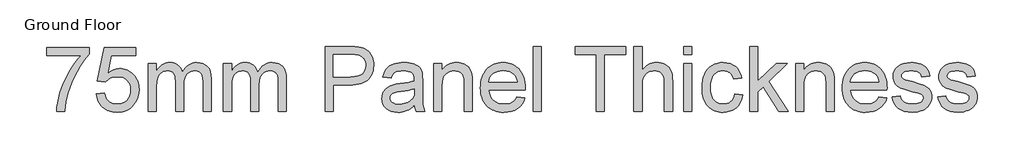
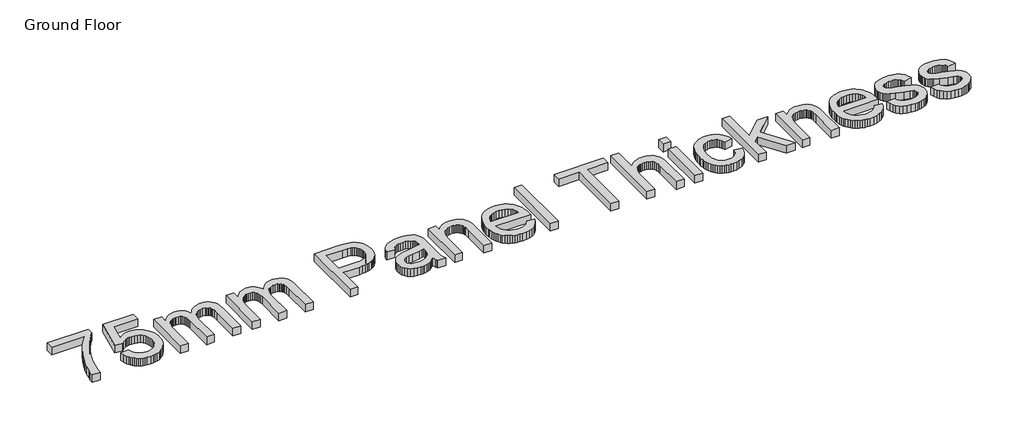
# One storey, part 6 of 9: 1 proxy.
"""IFC4 building model written with IfcOpenShell, lengths in millimetres."""

import ifcopenshell
import ifcopenshell.guid

model = None  # the IFC model being written
_history = None  # IfcOwnerHistory: only IFC2X3 demands one
_inside = {}  # id of a spatial element -> (the spatial element, [elements in it])
_under = {}  # id of a project, library or spatial element -> (it, [spatial elements below it])
_declared = {}  # id of a project -> (the project, [libraries it declares])
_typed = {}  # id of a type object -> (the type object, [elements of that type])
_made_of = {}  # id of a material, layer set ... -> (it, [elements and type objects made of it])


def new_model(schema):
    """Start an empty IFC model of exactly this schema.

    Asked for "IFC4X3", IfcOpenShell would pick the latest addendum, in which some entities
    have other attributes; the version numbers below select the first issue.
    IFC2X3 requires an IfcOwnerHistory on every rooted entity: one is made here for all.
    """
    global model, _history
    if schema == "IFC4X3":
        model = ifcopenshell.file(schema_version=(4, 3, 0, 0))
    else:
        model = ifcopenshell.file(schema=schema)
    _inside.clear()
    _under.clear()
    _declared.clear()
    _typed.clear()
    _made_of.clear()
    _history = None
    if model.schema == "IFC2X3":
        org = make("IfcOrganization", Name="unknown")
        user = make(
            "IfcPersonAndOrganization",
            ThePerson=make("IfcPerson", FamilyName="unknown"),
            TheOrganization=org,
        )
        app = make(
            "IfcApplication",
            ApplicationDeveloper=org,
            Version="unknown",
            ApplicationFullName="unknown",
            ApplicationIdentifier="unknown",
        )
        _history = make(
            "IfcOwnerHistory",
            OwningUser=user,
            OwningApplication=app,
            ChangeAction="ADDED",
            CreationDate=0,
        )
    return model


def make(cls, **values):
    """One entity of the class cls with the attributes given. An attribute that is None is left unset."""
    return model.create_entity(
        cls, **{name: value for name, value in values.items() if value is not None}
    )


def rooted(cls, **values):
    """An entity with a GlobalId (a new one), such as an element, a storey or a relation."""
    return make(cls, GlobalId=ifcopenshell.guid.new(), OwnerHistory=_history, **values)


def si_unit(unit_type, name, prefix=None):
    """IfcSIUnit, for example si_unit("LENGTHUNIT", "METRE", prefix="MILLI")."""
    return make("IfcSIUnit", UnitType=unit_type, Prefix=prefix, Name=name)


def assignment(units):
    """IfcUnitAssignment: the units of a project."""
    return None if units is None else make("IfcUnitAssignment", Units=units)


def point(xyz):
    """IfcCartesianPoint."""
    return None if xyz is None else make("IfcCartesianPoint", Coordinates=xyz)


def direction(xyz):
    """IfcDirection."""
    return None if xyz is None else make("IfcDirection", DirectionRatios=xyz)


def frame(location, z_axis=None, x_axis=None):
    """IfcAxis2Placement3D, a coordinate frame: its origin and axes. An axis left out is left unset."""
    return make(
        "IfcAxis2Placement3D",
        Location=point(location),
        Axis=direction(z_axis),
        RefDirection=direction(x_axis),
    )


def origin():
    """The frame at (0, 0, 0) with its axes left unset."""
    return frame((0.0, 0.0, 0.0))


def origin_with_axes():
    """The frame at (0, 0, 0) with the z axis (0, 0, 1) and the x axis (1, 0, 0) written out."""
    return frame((0.0, 0.0, 0.0), z_axis=(0.0, 0.0, 1.0), x_axis=(1.0, 0.0, 0.0))


def place(relative_to, where):
    """IfcLocalPlacement: puts the frame where relative to a parent placement (None: the world)."""
    return make(
        "IfcLocalPlacement", PlacementRelTo=relative_to, RelativePlacement=where
    )


def context(
    kind, dimensions, precision=None, world=None, true_north=None, identifier=None
):
    """IfcGeometricRepresentationContext, for example the 3D "Model" context."""
    return make(
        "IfcGeometricRepresentationContext",
        ContextIdentifier=identifier,
        ContextType=kind,
        CoordinateSpaceDimension=dimensions,
        Precision=precision,
        WorldCoordinateSystem=world,
        TrueNorth=true_north,
    )


def project(units=None, contexts=None):
    """IfcProject with its units and contexts."""
    return rooted(
        "IfcProject",
        Name="project",
        RepresentationContexts=contexts,
        UnitsInContext=assignment(units),
    )


def spatial(cls, under=None, at=None, **own):
    """A site, building, storey or space (cls), placed at a placement, below another one or the project."""
    s = rooted(cls, ObjectPlacement=at, **own)
    if under is not None:
        _under.setdefault(under.id(), (under, []))[1].append(s)
    return s


def polyline(points):
    """IfcPolyline through the points."""
    return make("IfcPolyline", Points=[point(p) for p in points])


def outline(outer, holes=None, kind="AREA"):
    """IfcArbitraryClosedProfileDef: a profile drawn as a closed curve; with holes, ...WithVoids."""
    if holes is None:
        return make("IfcArbitraryClosedProfileDef", ProfileType=kind, OuterCurve=outer)
    return make(
        "IfcArbitraryProfileDefWithVoids",
        ProfileType=kind,
        OuterCurve=outer,
        InnerCurves=holes,
    )


def extrude(swept, where, along, depth):
    """IfcExtrudedAreaSolid: the profile swept, set in the frame where, extruded along a direction by depth."""
    return make(
        "IfcExtrudedAreaSolid",
        SweptArea=swept,
        Position=where,
        ExtrudedDirection=direction(along),
        Depth=depth,
    )


def shape(context_of_items, identifier, shape_type, items):
    """IfcShapeRepresentation: the items that make up one representation, for example the "Body"."""
    return make(
        "IfcShapeRepresentation",
        ContextOfItems=context_of_items,
        RepresentationIdentifier=identifier,
        RepresentationType=shape_type,
        Items=items,
    )


def made_of(thing, what):
    """Note that an element or type object is made of a material, layer set ...; save() writes the relation."""
    if what is not None:
        _made_of.setdefault(what.id(), (what, []))[1].append(thing)
    return thing


def element(
    cls,
    number,
    at=None,
    inside=None,
    cuts=None,
    type_object=None,
    material=None,
    context=None,
    identifier="Body",
    shape_type=None,
    held_by="IfcProductDefinitionShape",
    body=None,
    shapes=None,
    **own,
):
    """One element of the class cls, such as IfcWall. Its Tag is "e" and its number.

    at: its placement. inside: the storey or other place that contains it. cuts: it is an
    opening in that element (IfcRelVoidsElement). A single representation is given by context,
    identifier, shape_type and body (its items); several are given by shapes. held_by: the class
    of the entity that holds the representations. save() writes the other relations.
    """
    e = rooted(cls, Tag="e%d" % number, ObjectPlacement=at, **own)
    if body is not None:
        shapes = [shape(context, identifier, shape_type, body)]
    if shapes is not None:
        e.Representation = make(held_by, Representations=shapes)
    if inside is not None:
        _inside.setdefault(inside.id(), (inside, []))[1].append(e)
    if cuts is not None:
        rooted(
            "IfcRelVoidsElement", RelatingBuildingElement=cuts, RelatedOpeningElement=e
        )
    if type_object is not None:
        _typed.setdefault(type_object.id(), (type_object, []))[1].append(e)
    return made_of(e, material)


def aggregate(whole, parts):
    """IfcRelAggregates: a whole, such as a stair, and the parts it consists of."""
    return rooted("IfcRelAggregates", RelatingObject=whole, RelatedObjects=parts)


def save(model, path):
    """Write the relations noted so far, then the file.

    IfcRelAggregates (storeys below a building ...), IfcRelContainedInSpatialStructure (elements
    in a storey), IfcRelDefinesByType, IfcRelAssociatesMaterial and IfcRelDeclares: one each for
    every whole, place, type object, material and project.
    """
    for whole, parts in _under.values():
        aggregate(whole, parts)
    for where, things in _inside.values():
        rooted(
            "IfcRelContainedInSpatialStructure",
            RelatedElements=things,
            RelatingStructure=where,
        )
    for kind, things in _typed.values():
        rooted("IfcRelDefinesByType", RelatedObjects=things, RelatingType=kind)
    for what, things in _made_of.values():
        rooted("IfcRelAssociatesMaterial", RelatedObjects=things, RelatingMaterial=what)
    for by, libraries in _declared.values():
        rooted("IfcRelDeclares", RelatingContext=by, RelatedDefinitions=libraries)
    model.write(path)


model = new_model("IFC4")

# Units and contexts
model_context = context("Model", 3, world=origin())
ifc_project = project(units=[si_unit("LENGTHUNIT", "METRE", prefix="MILLI")], contexts=[model_context])

# Site, building, storey
site = spatial("IfcSite", under=ifc_project)
building = spatial("IfcBuilding", under=site)
storey = spatial("IfcBuildingStorey", under=building, Name="Ground Floor", Elevation=0.0)

# Proxy
placement = place(None, origin())
element("IfcBuildingElementProxy", 1, Name="1200mm Arial", ObjectType="1200mm Arial", at=placement, inside=storey, context=model_context, shape_type="SweptSolid", body=[
    extrude(outline(polyline([(-51682.9165846, 11521.1336271), (-51682.9165846, 11668.042718), (-50911.6438573, 11668.042718), (-50911.6438573, 11549.2529453), (-50966.743733, 11484.415321), (-51021.5746102, 11410.12688), (-51076.1364887, 11326.3876222), (-51130.4293687, 11233.1975476), (-51181.512199, 11134.591635), (-51226.4439284, 11034.6048629), (-51265.2245569, 10933.2372315), (-51297.8540846, 10830.4887408), (-51317.2937153, 10755.8685348), (-51332.8597664, 10677.7692805), (-51344.552238, 10596.190978), (-51352.3711301, 10511.1336271), (-51499.280221, 10511.1336271), (-51494.662412, 10583.2790462), (-51483.3913715, 10662.5618942), (-51465.4670995, 10748.9821712), (-51440.889596, 10842.5398771), (-51409.9457927, 10938.7965355), (-51372.9226215, 11033.3136698), (-51329.8200825, 11126.0912798), (-51280.6381755, 11217.1293658), (-51227.5916556, 11303.755875), (-51172.8952778, 11383.298755), (-51116.549042, 11455.7580057), (-51058.5529482, 11521.1336271), (-51682.9165846, 11521.1336271)])), origin_with_axes(), (0.0, 0.0, 1.0), 150.0),
    extrude(outline(polyline([(-50783.0984028, 10823.3154453), (-50636.1893119, 10841.6790817), (-50625.2141698, 10794.4518977), (-50609.217721, 10753.4834141), (-50588.1999653, 10718.7736307), (-50562.1609028, 10690.3225476), (-50531.1543332, 10668.1660313), (-50495.2340562, 10652.3399482), (-50454.4000718, 10642.8442983), (-50408.6523801, 10639.6790817), (-50352.7006755, 10644.0816918), (-50303.3484028, 10657.289522), (-50260.5955619, 10679.3025725), (-50224.4421528, 10710.120843), (-50195.6951713, 10748.2200085), (-50175.161613, 10792.0757436), (-50162.8414781, 10841.6880483), (-50158.7347664, 10897.0569226), (-50162.5814461, 10949.3861129), (-50174.1214852, 10995.904934), (-50193.3548836, 11036.6133857), (-50220.2816414, 11071.511468), (-50254.9914248, 11099.5052536), (-50297.5738999, 11119.5008146), (-50348.0290668, 11131.4981513), (-50406.3569255, 11135.4972635), (-50443.6849617, 11133.9012053), (-50477.6236159, 11129.1130305), (-50508.1728879, 11121.1327394), (-50535.3327778, 11109.9603317), (-50581.4212011, 11080.6215533), (-50617.8256755, 11043.6790817), (-50764.7347664, 11062.042718), (-50636.1893119, 11668.042718), (-50066.9165846, 11668.042718), (-50066.9165846, 11521.1336271), (-50517.3995391, 11521.1336271), (-50580.2376073, 11197.4745362), (-50528.3926144, 11234.6322067), (-50475.2922948, 11261.1733999), (-50420.9366485, 11277.0981158), (-50365.3256755, 11282.4063544), (-50328.8248099, 11280.7609798), (-50293.78102, 11275.8248558), (-50260.1943057, 11267.5979826), (-50228.064667, 11256.0803601), (-50197.392104, 11241.2719883), (-50168.1766166, 11223.1728672), (-50140.4182048, 11201.7829968), (-50114.1168687, 11177.1023771), (-50090.1423703, 11149.8348878), (-50069.3644717, 11120.6844084), (-50051.7831728, 11089.6509389), (-50037.3984738, 11056.7344794), (-50026.2103746, 11021.9350298), (-50018.2188751, 10985.2525902), (-50013.4239754, 10946.6871605), (-50011.8256755, 10906.2387408), (-50017.5822451, 10830.130076), (-50034.8519539, 10759.3296499), (-50063.6348019, 10693.8374624), (-50103.9307891, 10633.6535135), (-50133.1799014, 10600.6339379), (-50164.9755335, 10572.0169723), (-50199.3176855, 10547.8026168), (-50236.2063573, 10527.9908715), (-50275.6415491, 10512.5817362), (-50317.6232607, 10501.5752109), (-50362.1514923, 10494.9712958), (-50409.2262437, 10492.7699908), (-50485.03901, 10498.4279276), (-50520.1948827, 10505.5003486), (-50553.5170818, 10515.4017379), (-50585.0056072, 10528.1320957), (-50614.6604589, 10543.6914219), (-50642.481637, 10562.0797165), (-50668.4691414, 10583.2969794), (-50692.1970578, 10606.8500467), (-50713.2394717, 10632.2457543), (-50731.5963831, 10659.4841021), (-50747.267792, 10688.5650902), (-50770.5541024, 10752.2549872), (-50783.0984028, 10823.3154453)])), origin_with_axes(), (0.0, 0.0, 1.0), 150.0),
    extrude(outline(polyline([(-49846.5529482, 10511.1336271), (-49846.5529482, 11374.2245362), (-49699.6438573, 11374.2245362), (-49699.6438573, 11232.1932862), (-49679.1282323, 11266.5802713), (-49655.4563573, 11297.4344084), (-49628.6282323, 11324.7556975), (-49598.6438573, 11348.5441385), (-49565.9874298, 11367.8134034), (-49531.1431471, 11381.5771641), (-49494.1110093, 11389.8354205), (-49454.8910164, 11392.5881726), (-49412.0126428, 11389.7816207), (-49373.1871812, 11381.3619652), (-49338.4146315, 11367.329206), (-49307.6949937, 11347.683343), (-49281.117934, 11322.9803068), (-49258.7731187, 11293.7760277), (-49240.6605477, 11260.0705057), (-49226.780221, 11221.8637408), (-49200.9473907, 11261.8772795), (-49173.2315704, 11296.5556797), (-49143.63276, 11325.8989414), (-49112.1509596, 11349.9070646), (-49078.7861691, 11368.5800494), (-49043.5383886, 11381.9178956), (-49006.407618, 11389.9206033), (-48967.3938573, 11392.5881726), (-48908.5818012, 11388.149696), (-48856.9609738, 11374.8342663), (-48812.5313751, 11352.6418835), (-48775.2930051, 11321.5725476), (-48745.8555938, 11281.2675938), (-48724.8288715, 11231.3683573), (-48712.2128382, 11171.8748381), (-48708.0074937, 11102.7870362), (-48708.0074937, 10511.1336271), (-48854.9165846, 10511.1336271), (-48854.9165846, 11039.6620362), (-48858.3238999, 11112.9372493), (-48868.545846, 11162.3253885), (-48876.741336, 11180.1420611), (-48887.6985448, 11196.1474766), (-48901.4174724, 11210.341635), (-48917.8981187, 11222.7245362), (-48936.5397203, 11232.7671499), (-48956.7415136, 11239.9404453), (-49001.8256755, 11245.6790817), (-49043.457689, 11242.0027678), (-49081.4133886, 11230.973826), (-49115.6927742, 11212.5922564), (-49146.295846, 11186.858059), (-49171.4651464, 11153.0180377), (-49189.4432181, 11110.3189965), (-49200.2300612, 11058.7609354), (-49203.8256755, 10998.3438544), (-49203.8256755, 10511.1336271), (-49350.7347664, 10511.1336271), (-49350.7347664, 11056.0171499), (-49352.8598552, 11100.5274482), (-49359.2351215, 11139.0839112), (-49369.8605654, 11171.6865391), (-49384.7361869, 11198.3353317), (-49404.4537828, 11219.0482223), (-49429.6051499, 11233.8431442), (-49460.1902884, 11242.7200973), (-49496.2091982, 11245.6790817), (-49525.0637792, 11243.7064254), (-49552.8064994, 11237.7884567), (-49579.4373588, 11227.9251754), (-49604.9563573, 11214.1165817), (-49628.1978346, 11196.5061413), (-49647.9961301, 11175.2373203), (-49664.3512437, 11150.3101186), (-49677.2631755, 11121.7245362), (-49687.0547238, 11087.9562479), (-49694.0486869, 11047.4809283), (-49699.6438573, 10946.4091953), (-49699.6438573, 10511.1336271), (-49846.5529482, 10511.1336271)])), origin_with_axes(), (0.0, 0.0, 1.0), 150.0),
    extrude(outline(polyline([(-48487.6438573, 10511.1336271), (-48487.6438573, 11374.2245362), (-48340.7347664, 11374.2245362), (-48340.7347664, 11232.1932862), (-48320.2191414, 11266.5802713), (-48296.5472664, 11297.4344084), (-48269.7191414, 11324.7556975), (-48239.7347664, 11348.5441385), (-48207.0783389, 11367.8134034), (-48172.2340562, 11381.5771641), (-48135.2019184, 11389.8354205), (-48095.9819255, 11392.5881726), (-48053.1035519, 11389.7816207), (-48014.2780903, 11381.3619652), (-47979.5055406, 11367.329206), (-47948.7859028, 11347.683343), (-47922.2088431, 11322.9803068), (-47899.8640278, 11293.7760277), (-47881.7514568, 11260.0705057), (-47867.8711301, 11221.8637408), (-47842.0382998, 11261.8772795), (-47814.3224795, 11296.5556797), (-47784.7236691, 11325.8989414), (-47753.2418687, 11349.9070646), (-47719.8770782, 11368.5800494), (-47684.6292977, 11381.9178956), (-47647.4985271, 11389.9206033), (-47608.4847664, 11392.5881726), (-47549.6727103, 11388.149696), (-47498.0518829, 11374.8342663), (-47453.6222842, 11352.6418835), (-47416.3839141, 11321.5725476), (-47386.9465029, 11281.2675938), (-47365.9197806, 11231.3683573), (-47353.3037472, 11171.8748381), (-47349.0984028, 11102.7870362), (-47349.0984028, 10511.1336271), (-47496.0074937, 10511.1336271), (-47496.0074937, 11039.6620362), (-47499.414809, 11112.9372493), (-47509.6367551, 11162.3253885), (-47517.8322451, 11180.1420611), (-47528.7894539, 11196.1474766), (-47542.5083815, 11210.341635), (-47558.9890278, 11222.7245362), (-47577.6306293, 11232.7671499), (-47597.8324227, 11239.9404453), (-47642.9165846, 11245.6790817), (-47684.5485981, 11242.0027678), (-47722.5042977, 11230.973826), (-47756.7836833, 11212.5922564), (-47787.3867551, 11186.858059), (-47812.5560555, 11153.0180377), (-47830.5341272, 11110.3189965), (-47841.3209703, 11058.7609354), (-47844.9165846, 10998.3438544), (-47844.9165846, 10511.1336271), (-47991.8256755, 10511.1336271), (-47991.8256755, 11056.0171499), (-47993.9507643, 11100.5274482), (-48000.3260306, 11139.0839112), (-48010.9514745, 11171.6865391), (-48025.827096, 11198.3353317), (-48045.5446918, 11219.0482223), (-48070.696059, 11233.8431442), (-48101.2811975, 11242.7200973), (-48137.3001073, 11245.6790817), (-48166.1546883, 11243.7064254), (-48193.8974085, 11237.7884567), (-48220.5282678, 11227.9251754), (-48246.0472664, 11214.1165817), (-48269.2887437, 11196.5061413), (-48289.0870391, 11175.2373203), (-48305.4421528, 11150.3101186), (-48318.3540846, 11121.7245362), (-48328.1456329, 11087.9562479), (-48335.139596, 11047.4809283), (-48340.7347664, 10946.4091953), (-48340.7347664, 10511.1336271), (-48487.6438573, 10511.1336271)])), origin_with_axes(), (0.0, 0.0, 1.0), 150.0),
    extrude(outline(polyline([(-46651.280221, 10511.1336271), (-46651.280221, 11686.4063544), (-46215.717721, 11686.4063544), (-46114.2873232, 11683.6087692), (-46040.1154482, 11675.2160135), (-45999.2366308, 11666.4018267), (-45961.8189284, 11654.3058573), (-45927.862341, 11638.9281051), (-45897.3668687, 11620.2685703), (-45870.0097132, 11597.9416882), (-45845.4680761, 11571.5618942), (-45823.7419575, 11541.1291882), (-45804.8313573, 11506.6435703), (-45789.5163715, 11469.2438011), (-45778.577096, 11430.0686413), (-45772.0135306, 11389.1180909), (-45769.8256755, 11346.3921499), (-45775.7346776, 11274.2467308), (-45783.1209303, 11240.3394599), (-45793.461684, 11207.8758146), (-45806.7569388, 11176.8557951), (-45823.0066947, 11147.2794013), (-45842.2109516, 11119.1466332), (-45864.3697096, 11092.4574908), (-45890.3841139, 11068.1131193), (-45921.1553097, 11047.0146641), (-45956.6832971, 11029.162125), (-45996.9680761, 11014.5555021), (-46042.0096466, 11003.1947955), (-46091.8080086, 10995.080005), (-46146.3631622, 10990.2111307), (-46205.6751073, 10988.5881726), (-46504.3711301, 10988.5881726), (-46504.3711301, 10511.1336271), (-46651.280221, 10511.1336271)]), holes=[polyline([(-46504.3711301, 11135.4972635), (-46197.0671528, 11135.4972635), (-46126.4101926, 11138.8687124), (-46066.8001073, 11148.983059), (-46018.2368971, 11165.8403033), (-45980.7205619, 11189.4404453), (-45952.7267764, 11219.1558217), (-45932.7312153, 11254.3587692), (-45920.7338786, 11295.0492877), (-45916.7347664, 11341.2273771), (-45919.0929873, 11375.5157294), (-45926.1676499, 11407.2216953), (-45937.9587543, 11436.3452749), (-45954.4663005, 11462.886468), (-45974.8115597, 11485.9844794), (-45998.1158034, 11504.7785135), (-46024.3790313, 11519.2685703), (-46053.6012437, 11529.4546499), (-46110.2702778, 11536.9866101), (-46200.5103346, 11539.4972635), (-46504.3711301, 11539.4972635), (-46504.3711301, 11135.4972635)])]), origin_with_axes(), (0.0, 0.0, 1.0), 150.0),
    extrude(outline(polyline([(-45035.280221, 10621.3154453), (-45070.115537, 10588.6231513), (-45105.470917, 10561.1314965), (-45141.3463609, 10538.8404808), (-45177.7418687, 10521.7501044), (-45215.0699049, 10509.0713047), (-45253.742934, 10500.0150192), (-45293.7609561, 10494.5812479), (-45335.123971, 10492.7699908), (-45400.5354589, 10497.1277678), (-45457.8949227, 10510.2010987), (-45507.2023623, 10531.9899837), (-45548.4577778, 10562.4944226), (-45581.0335058, 10599.7776257), (-45604.3018829, 10641.9028033), (-45618.2629092, 10688.8699553), (-45622.9165846, 10740.6790817), (-45621.1591272, 10771.8291172), (-45615.8867551, 10801.5803601), (-45607.0994681, 10829.9328104), (-45594.7972664, 10856.886468), (-45579.6347132, 10881.8495362), (-45562.2663715, 10904.230218), (-45542.6922416, 10924.0285135), (-45520.9123232, 10941.2444226), (-45472.3132465, 10969.2202749), (-45418.0472664, 10989.448968), (-45365.1800789, 11000.7110419), (-45290.936471, 11011.542718), (-45140.7276641, 11034.7841953), (-45082.7315704, 11047.911326), (-45036.1410164, 11062.042718), (-45035.280221, 11094.7529453), (-45037.8088076, 11130.3683573), (-45045.3945676, 11160.3168658), (-45058.0375008, 11184.5984709), (-45075.7376073, 11203.2131726), (-45106.3317124, 11221.7920078), (-45143.5969823, 11235.0626044), (-45187.533417, 11243.0249624), (-45238.1410164, 11245.6790817), (-45285.1978346, 11243.9126577), (-45325.655221, 11238.6133857), (-45359.5131755, 11229.7812656), (-45386.7716982, 11217.4162976), (-45409.1703133, 11200.5500867), (-45428.4485448, 11178.2142379), (-45444.6063928, 11150.4087514), (-45457.6438573, 11117.1336271), (-45604.5529482, 11135.4972635), (-45593.371574, 11177.8197067), (-45579.0518829, 11215.8381726), (-45561.5938751, 11249.5526612), (-45540.9975505, 11278.9631726), (-45516.3752139, 11304.6615036), (-45486.8391698, 11327.239451), (-45452.3894184, 11346.6970149), (-45413.0259596, 11363.0341953), (-45369.5468225, 11375.9640604), (-45322.7500363, 11385.1996783), (-45272.6356009, 11390.741049), (-45219.2035164, 11392.5881726), (-45166.9729589, 11390.9562479), (-45119.8892409, 11386.0604737), (-45077.9523623, 11377.9008502), (-45041.1623232, 11366.4773771), (-45009.2142586, 11352.5880838), (-44981.8033034, 11337.0309993), (-44958.9294575, 11319.8061236), (-44940.592721, 11300.9134567), (-44925.7260661, 11279.8867344), (-44913.2624653, 11256.2596925), (-44895.5444255, 11201.2046499), (-44890.1644539, 11150.417718), (-44888.3711301, 11072.6591953), (-44888.3711301, 10889.8836271), (-44886.5060732, 10730.6723345), (-44880.9109028, 10634.6577749), (-44869.8640278, 10571.5686413), (-44851.6438573, 10511.1336271), (-44998.5529482, 10511.1336271), (-45011.608346, 10535.6662976), (-45022.0813573, 10562.2074908), (-45035.280221, 10621.3154453)]), holes=[polyline([(-45035.280221, 10915.1336271), (-45079.6829198, 10902.4189609), (-45133.9847664, 10890.6726896), (-45272.2859028, 10870.0853317), (-45348.502167, 10858.8232578), (-45398.6793687, 10846.2699908), (-45431.5689284, 10829.9866101), (-45455.9222664, 10807.5341953), (-45470.9861869, 10780.6343374), (-45476.0074937, 10751.0086271), (-45473.2726748, 10728.1796144), (-45465.0682181, 10707.3232578), (-45451.3941237, 10688.4395575), (-45432.2503914, 10671.5285135), (-45407.8163538, 10657.5943871), (-45378.2713431, 10647.6414396), (-45343.6153595, 10641.6696712), (-45303.8484028, 10639.6790817), (-45263.2475505, 10641.8759034), (-45224.9421528, 10648.4663686), (-45188.9322096, 10659.4504773), (-45155.217721, 10674.8282294), (-45124.8029482, 10693.3263651), (-45098.6921528, 10713.6716243), (-45076.8853346, 10735.8640071), (-45059.3824937, 10759.9035135), (-45049.2143474, 10781.4233999), (-45041.9513857, 10807.5341953), (-45037.5936088, 10838.2358999), (-45036.1410164, 10873.5285135), (-45035.280221, 10915.1336271)])]), origin_with_axes(), (0.0, 0.0, 1.0), 150.0),
    extrude(outline(polyline([(-44686.3711301, 10511.1336271), (-44686.3711301, 11374.2245362), (-44539.4620391, 11374.2245362), (-44539.4620391, 11253.7131726), (-44515.2252671, 11286.2620007), (-44488.424042, 11314.4709851), (-44459.0583637, 11338.3401257), (-44427.1282323, 11357.8694226), (-44392.6336478, 11373.0588757), (-44355.5746102, 11383.9084851), (-44315.9511194, 11390.4182507), (-44273.7631755, 11392.5881726), (-44236.7938041, 11390.8396818), (-44201.3487579, 11385.5942095), (-44167.428037, 11376.8517557), (-44135.0316414, 11364.6123203), (-44105.387998, 11349.5304666), (-44079.7255335, 11332.2607578), (-44058.044248, 11312.8031939), (-44040.3441414, 11291.1577749), (-44013.6236159, 11241.4109709), (-43996.3001073, 11183.1279453), (-43990.489738, 11127.3914396), (-43988.5529482, 11041.0966953), (-43988.5529482, 10511.1336271), (-44135.4620391, 10511.1336271), (-44135.4620391, 11021.2983999), (-44139.6942835, 11097.2635987), (-44144.9845889, 11127.0148416), (-44152.3910164, 11151.2785135), (-44162.4784632, 11171.7134389), (-44175.8118261, 11189.9784425), (-44192.3911052, 11206.0735242), (-44212.2163005, 11219.998684), (-44234.605949, 11231.233858), (-44258.8785874, 11239.2589823), (-44285.034216, 11244.0740568), (-44313.0728346, 11245.6790817), (-44357.6817657, 11242.0745007), (-44399.1165136, 11231.2607578), (-44437.3770782, 11213.237853), (-44472.4634596, 11188.0057862), (-44488.1662517, 11171.9689876), (-44501.7753382, 11152.6952394), (-44513.290719, 11130.1845416), (-44522.7123943, 11104.4368942), (-44535.2746279, 11043.2307507), (-44539.4620391, 10969.076809), (-44539.4620391, 10511.1336271), (-44686.3711301, 10511.1336271)])), origin_with_axes(), (0.0, 0.0, 1.0), 150.0),
    extrude(outline(polyline([(-43182.2745391, 10768.2245362), (-43038.2347664, 10749.8608999), (-43060.3195498, 10692.1696712), (-43090.133559, 10641.3289396), (-43127.6767941, 10597.3387053), (-43172.9492551, 10560.198968), (-43225.4846776, 10530.6987905), (-43284.8167977, 10509.6272351), (-43350.9456151, 10496.9843019), (-43423.8711301, 10492.7699908), (-43470.6903328, 10494.5879728), (-43515.025782, 10500.041919), (-43556.8774777, 10509.1318294), (-43596.2454198, 10521.8577038), (-43633.1296084, 10538.2195424), (-43667.5300434, 10558.2173452), (-43699.4467249, 10581.851112), (-43728.8796528, 10609.120843), (-43755.3087632, 10639.6723567), (-43778.2139923, 10673.1514716), (-43797.5953399, 10709.5581877), (-43813.4528062, 10748.892505), (-43825.7863911, 10791.1544235), (-43834.5960945, 10836.3439432), (-43839.8819166, 10884.4610641), (-43841.6438573, 10935.5057862), (-43839.8639834, 10988.2877908), (-43834.5243616, 11038.0301115), (-43825.6249919, 11084.7327482), (-43813.1658744, 11128.395701), (-43797.147009, 11169.0189698), (-43777.5683957, 11206.6025547), (-43754.4300345, 11241.1464556), (-43727.7319255, 11272.6506726), (-43698.1958815, 11300.7610242), (-43666.5437153, 11325.1233288), (-43632.7754269, 11345.7375867), (-43596.8910164, 11362.6037976), (-43558.8904838, 11375.7219617), (-43518.7738289, 11385.0920788), (-43476.5410519, 11390.7141492), (-43432.1921528, 11392.5881726), (-43389.2936043, 11390.7186325), (-43348.3990953, 11385.1100121), (-43309.5086256, 11375.7623114), (-43272.6221954, 11362.6755305), (-43237.7398046, 11345.8496694), (-43204.8614532, 11325.284728), (-43173.9871412, 11300.9807063), (-43145.1168687, 11272.9376044), (-43118.9903817, 11241.5051204), (-43096.3474262, 11207.0329524), (-43077.1880024, 11169.5211005), (-43061.5121102, 11128.9695646), (-43049.3197496, 11085.3783448), (-43040.6109205, 11038.7474411), (-43035.3856231, 10989.0768533), (-43033.6438573, 10936.3665817), (-43034.5046528, 10896.7699908), (-43694.7347664, 10896.7699908), (-43686.2254447, 10838.1462337), (-43669.305434, 10786.8033715), (-43643.9747345, 10742.7414041), (-43610.233346, 10705.9603317), (-43569.9463254, 10676.9622848), (-43524.9787295, 10656.2493942), (-43475.3305583, 10643.8216598), (-43421.0018119, 10639.6790817), (-43380.3650931, 10641.5979382), (-43342.8128914, 10647.3545078), (-43308.3452068, 10656.9487905), (-43276.9620391, 10670.3807862), (-43248.6633886, 10688.0091598), (-43223.4492551, 10710.192576), (-43201.3196386, 10736.9310348), (-43182.2745391, 10768.2245362)]), holes=[polyline([(-43694.7347664, 11043.6790817), (-43180.5529482, 11043.6790817), (-43188.1028417, 11085.2483288), (-43200.4229766, 11121.2941385), (-43217.5133531, 11151.8165107), (-43239.373971, 11176.8154453), (-43279.4368261, 11206.9432862), (-43325.0231187, 11228.4631726), (-43376.1328488, 11241.3751044), (-43432.7660164, 11245.6790817), (-43484.4227103, 11242.2448665), (-43531.7933602, 11231.9422209), (-43574.877966, 11214.7711449), (-43613.6765278, 11190.7316385), (-43646.2343225, 11160.9355625), (-43670.5966272, 11126.4947777), (-43686.7634418, 11087.4092841), (-43694.7347664, 11043.6790817)])]), origin_with_axes(), (0.0, 0.0, 1.0), 150.0),
    extrude(outline(polyline([(-42886.7347664, 10511.1336271), (-42886.7347664, 11686.4063544), (-42739.8256755, 11686.4063544), (-42739.8256755, 10511.1336271), (-42886.7347664, 10511.1336271)])), origin_with_axes(), (0.0, 0.0, 1.0), 150.0),
    extrude(outline(polyline([(-41748.1893119, 10511.1336271), (-41748.1893119, 11539.4972635), (-42133.8256755, 11539.4972635), (-42133.8256755, 11686.4063544), (-41215.6438573, 11686.4063544), (-41215.6438573, 11539.4972635), (-41601.280221, 11539.4972635), (-41601.280221, 10511.1336271), (-41748.1893119, 10511.1336271)])), origin_with_axes(), (0.0, 0.0, 1.0), 150.0),
    extrude(outline(polyline([(-41068.7347664, 10511.1336271), (-41068.7347664, 11686.4063544), (-40921.8256755, 11686.4063544), (-40921.8256755, 11254.2870362), (-40895.6745303, 11286.7013651), (-40867.8645605, 11314.7937834), (-40838.3957661, 11338.5642912), (-40807.2681471, 11358.0128885), (-40774.4817036, 11373.1395753), (-40740.0364355, 11383.9443516), (-40703.9323428, 11390.4272173), (-40666.1694255, 11392.5881726), (-40620.2424014, 11390.2299517), (-40577.4357607, 11383.1552891), (-40537.7495036, 11371.3641847), (-40501.1836301, 11354.8566385), (-40468.6706684, 11334.188581), (-40441.1431471, 11309.9159425), (-40418.6010661, 11282.038723), (-40401.0444255, 11250.5569226), (-40387.8634951, 11213.5247848), (-40378.4485448, 11168.9965533), (-40372.7995747, 11116.972228), (-40370.9165846, 11057.451809), (-40370.9165846, 10511.1336271), (-40517.8256755, 10511.1336271), (-40517.8256755, 11042.2444226), (-40520.7487934, 11091.8477607), (-40529.5181471, 11134.2060703), (-40544.1337366, 11169.3193516), (-40564.5955619, 11197.1876044), (-40590.4194255, 11218.4026257), (-40621.1211301, 11233.5562124), (-40656.7006755, 11242.6483644), (-40697.1580619, 11245.6790817), (-40728.6757288, 11243.6346925), (-40759.242934, 11237.5015249), (-40788.8596776, 11227.2795788), (-40817.5259596, 11212.9688544), (-40843.6905548, 11195.1611484), (-40865.802238, 11174.4482578), (-40883.8610093, 11150.8301825), (-40897.8668687, 11124.3069226), (-40908.3488467, 11093.6590178), (-40915.8359738, 11057.6670078), (-40920.3282501, 11016.3308928), (-40921.8256755, 10969.6506726), (-40921.8256755, 10511.1336271), (-41068.7347664, 10511.1336271)])), origin_with_axes(), (0.0, 0.0, 1.0), 150.0),
    extrude(outline(polyline([(-40168.9165846, 10511.1336271), (-40168.9165846, 11374.2245362), (-40022.0074937, 11374.2245362), (-40022.0074937, 10511.1336271), (-40168.9165846, 10511.1336271)])), origin_with_axes(), (0.0, 0.0, 1.0), 150.0),
    extrude(outline(polyline([(-40168.9165846, 11539.4972635), (-40168.9165846, 11686.4063544), (-40022.0074937, 11686.4063544), (-40022.0074937, 11539.4972635), (-40168.9165846, 11539.4972635)])), origin_with_axes(), (0.0, 0.0, 1.0), 150.0),
    extrude(outline(polyline([(-39250.7347664, 10823.3154453), (-39103.8256755, 10804.951809), (-39119.8041911, 10735.630875), (-39144.7851926, 10674.2902323), (-39178.7686798, 10620.9298807), (-39221.7546528, 10575.5498203), (-39271.9318545, 10539.3336449), (-39327.4890278, 10513.4649482), (-39388.4261727, 10497.9437301), (-39454.7432891, 10492.7699908), (-39497.0052077, 10494.5745229), (-39537.1375541, 10499.9881193), (-39575.1403284, 10509.01078), (-39611.0135306, 10521.642505), (-39644.7571608, 10537.8832942), (-39676.3712188, 10557.7331477), (-39705.8557048, 10581.1920655), (-39733.2106187, 10608.2600476), (-39757.8576135, 10638.6994785), (-39779.2183424, 10672.2727429), (-39797.2928053, 10708.9798407), (-39812.0810022, 10748.820772), (-39823.5829331, 10791.7955368), (-39831.7985981, 10837.904135), (-39836.7279971, 10887.1465666), (-39838.3711301, 10939.5228317), (-39835.5645782, 11007.068375), (-39827.1449227, 11070.2561413), (-39813.1121634, 11129.0861307), (-39793.4663005, 11183.558343), (-39768.0728346, 11232.5788509), (-39736.7972664, 11275.0537266), (-39699.639596, 11310.9829702), (-39656.5998232, 11340.3665817), (-39609.6237046, 11363.2135277), (-39560.6569965, 11379.5327749), (-39509.699699, 11389.3243232), (-39456.7518119, 11392.5881726), (-39391.5734561, 11388.1048629), (-39332.617934, 11374.654934), (-39279.8852458, 11352.2383857), (-39233.3753914, 11320.855218), (-39193.8774333, 11281.2227607), (-39162.180434, 11234.058343), (-39138.2843936, 11179.3619652), (-39122.1893119, 11117.1336271), (-39269.0984028, 11098.7699908), (-39280.5667089, 11133.0852429), (-39295.7471954, 11162.8633857), (-39314.6398623, 11188.104419), (-39337.2447096, 11208.808343), (-39362.9878737, 11224.9392912), (-39391.2954909, 11236.461397), (-39422.1675612, 11243.3746605), (-39455.6040846, 11245.6790817), (-39505.5212543, 11241.1419723), (-39550.5426499, 11227.5306442), (-39590.6682714, 11204.8450973), (-39625.8981187, 11173.0853317), (-39641.2646626, 11153.6188011), (-39654.5823339, 11131.5160845), (-39675.071059, 11079.402093), (-39687.3642941, 11016.7433573), (-39691.4620391, 10943.5398771), (-39687.4539603, 10869.2335029), (-39675.4297238, 10805.8484709), (-39655.3893296, 10753.3847813), (-39642.3630734, 10731.2484398), (-39627.3327778, 10711.842434), (-39592.8023268, 10680.2709673), (-39553.3402352, 10657.7199198), (-39508.9465029, 10644.1892912), (-39459.6211301, 10639.6790817), (-39419.8721066, 10642.4946002), (-39383.5483318, 10650.9411555), (-39350.6498055, 10665.0187479), (-39321.1765278, 10684.7273771), (-39295.9534276, 10710.2822422), (-39275.805434, 10741.8985419), (-39260.732547, 10779.5762763), (-39250.7347664, 10823.3154453)])), origin_with_axes(), (0.0, 0.0, 1.0), 150.0),
    extrude(outline(polyline([(-38975.280221, 10511.1336271), (-38975.280221, 11686.4063544), (-38828.3711301, 11686.4063544), (-38828.3711301, 11054.8694226), (-38498.9734028, 11374.2245362), (-38295.8256755, 11374.2245362), (-38629.2404482, 11050.8523771), (-38277.4620391, 10511.1336271), (-38449.0472664, 10511.1336271), (-38734.5444255, 10948.7046499), (-38828.3711301, 10857.7472635), (-38828.3711301, 10511.1336271), (-38975.280221, 10511.1336271)])), origin_with_axes(), (0.0, 0.0, 1.0), 150.0),
    extrude(outline(polyline([(-38148.9165846, 10511.1336271), (-38148.9165846, 11374.2245362), (-38002.0074937, 11374.2245362), (-38002.0074937, 11253.7131726), (-37977.7707217, 11286.2620007), (-37950.9694965, 11314.4709851), (-37921.6038183, 11338.3401257), (-37889.6736869, 11357.8694226), (-37855.1791024, 11373.0588757), (-37818.1200647, 11383.9084851), (-37778.496574, 11390.4182507), (-37736.3086301, 11392.5881726), (-37699.3392586, 11390.8396818), (-37663.8942124, 11385.5942095), (-37629.9734916, 11376.8517557), (-37597.577096, 11364.6123203), (-37567.9334525, 11349.5304666), (-37542.270988, 11332.2607578), (-37520.5897025, 11312.8031939), (-37502.889596, 11291.1577749), (-37476.1690704, 11241.4109709), (-37458.8455619, 11183.1279453), (-37453.0351926, 11127.3914396), (-37451.0984028, 11041.0966953), (-37451.0984028, 10511.1336271), (-37598.0074937, 10511.1336271), (-37598.0074937, 11021.2983999), (-37602.239738, 11097.2635987), (-37607.5300434, 11127.0148416), (-37614.936471, 11151.2785135), (-37625.0239177, 11171.7134389), (-37638.3572806, 11189.9784425), (-37654.9365597, 11206.0735242), (-37674.7617551, 11219.998684), (-37697.1514035, 11231.233858), (-37721.424042, 11239.2589823), (-37747.5796705, 11244.0740568), (-37775.6182891, 11245.6790817), (-37820.2272203, 11242.0745007), (-37861.6619681, 11231.2607578), (-37899.9225328, 11213.237853), (-37935.0089141, 11188.0057862), (-37950.7117062, 11171.9689876), (-37964.3207927, 11152.6952394), (-37975.8361736, 11130.1845416), (-37985.2578488, 11104.4368942), (-37997.8200825, 11043.2307507), (-38002.0074937, 10969.076809), (-38002.0074937, 10511.1336271), (-38148.9165846, 10511.1336271)])), origin_with_axes(), (0.0, 0.0, 1.0), 150.0),
    extrude(outline(polyline([(-36644.8199937, 10768.2245362), (-36500.780221, 10749.8608999), (-36522.8650043, 10692.1696712), (-36552.6790136, 10641.3289396), (-36590.2222487, 10597.3387053), (-36635.4947096, 10560.198968), (-36688.0301322, 10530.6987905), (-36747.3622522, 10509.6272351), (-36813.4910697, 10496.9843019), (-36886.4165846, 10492.7699908), (-36933.2357874, 10494.5879728), (-36977.5712366, 10500.041919), (-37019.4229323, 10509.1318294), (-37058.7908744, 10521.8577038), (-37095.6750629, 10538.2195424), (-37130.075498, 10558.2173452), (-37161.9921794, 10581.851112), (-37191.4251073, 10609.120843), (-37217.8542178, 10639.6723567), (-37240.7594468, 10673.1514716), (-37260.1407945, 10709.5581877), (-37275.9982607, 10748.892505), (-37288.3318456, 10791.1544235), (-37297.1415491, 10836.3439432), (-37302.4273712, 10884.4610641), (-37304.1893119, 10935.5057862), (-37302.4094379, 10988.2877908), (-37297.0698161, 11038.0301115), (-37288.1704465, 11084.7327482), (-37275.7113289, 11128.395701), (-37259.6924635, 11169.0189698), (-37240.1138502, 11206.6025547), (-37216.9754891, 11241.1464556), (-37190.2773801, 11272.6506726), (-37160.741336, 11300.7610242), (-37129.0891698, 11325.1233288), (-37095.3208815, 11345.7375867), (-37059.436471, 11362.6037976), (-37021.4359383, 11375.7219617), (-36981.3192835, 11385.0920788), (-36939.0865065, 11390.7141492), (-36894.7376073, 11392.5881726), (-36851.8390589, 11390.7186325), (-36810.9445498, 11385.1100121), (-36772.0540802, 11375.7623114), (-36735.1676499, 11362.6755305), (-36700.2852591, 11345.8496694), (-36667.4069078, 11325.284728), (-36636.5325958, 11300.9807063), (-36607.6623232, 11272.9376044), (-36581.5358362, 11241.5051204), (-36558.8928808, 11207.0329524), (-36539.7334569, 11169.5211005), (-36524.0575647, 11128.9695646), (-36511.8652041, 11085.3783448), (-36503.1563751, 11038.7474411), (-36497.9310777, 10989.0768533), (-36496.1893119, 10936.3665817), (-36497.0501073, 10896.7699908), (-37157.280221, 10896.7699908), (-37148.7708992, 10838.1462337), (-37131.8508886, 10786.8033715), (-37106.520189, 10742.7414041), (-37072.7788005, 10705.9603317), (-37032.4917799, 10676.9622848), (-36987.524184, 10656.2493942), (-36937.8760129, 10643.8216598), (-36883.5472664, 10639.6790817), (-36842.9105477, 10641.5979382), (-36805.358346, 10647.3545078), (-36770.8906613, 10656.9487905), (-36739.5074937, 10670.3807862), (-36711.2088431, 10688.0091598), (-36685.9947096, 10710.192576), (-36663.8650931, 10736.9310348), (-36644.8199937, 10768.2245362)]), holes=[polyline([(-37157.280221, 11043.6790817), (-36643.0984028, 11043.6790817), (-36650.6482963, 11085.2483288), (-36662.9684312, 11121.2941385), (-36680.0588076, 11151.8165107), (-36701.9194255, 11176.8154453), (-36741.9822806, 11206.9432862), (-36787.5685732, 11228.4631726), (-36838.6783034, 11241.3751044), (-36895.311471, 11245.6790817), (-36946.9681649, 11242.2448665), (-36994.3388147, 11231.9422209), (-37037.4234205, 11214.7711449), (-37076.2219823, 11190.7316385), (-37108.7797771, 11160.9355625), (-37133.1420818, 11126.4947777), (-37149.3088964, 11087.4092841), (-37157.280221, 11043.6790817)])]), origin_with_axes(), (0.0, 0.0, 1.0), 150.0),
    extrude(outline(polyline([(-36404.3711301, 10768.2245362), (-36257.4620391, 10786.5881726), (-36248.585086, 10753.0888828), (-36234.2922948, 10723.7501044), (-36214.5836656, 10698.5718374), (-36189.4591982, 10677.5540817), (-36158.8471599, 10660.9837692), (-36122.6758176, 10649.1478317), (-36080.9451713, 10642.0462692), (-36033.655221, 10639.6790817), (-35986.4190704, 10641.8490036), (-35945.7106187, 10648.3587692), (-35911.5298659, 10659.2083786), (-35883.8768119, 10674.3978317), (-35862.5362579, 10692.5104027), (-35847.2930051, 10712.1293658), (-35838.1470534, 10733.2547209), (-35835.0984028, 10755.886468), (-35838.1649866, 10775.72063), (-35847.364738, 10793.3310703), (-35862.697657, 10808.7177891), (-35884.1637437, 10821.8807862), (-35939.1829198, 10840.5313544), (-36035.3768119, 10863.7728317), (-36169.4457039, 10902.5444936), (-36256.6012437, 10935.6492521), (-36286.5228524, 10952.2464645), (-36312.5888147, 10971.7667948), (-36334.7991308, 10994.2102429), (-36353.1538005, 11019.576809), (-36367.5272913, 11047.1043303), (-36377.7940704, 11076.0306442), (-36383.9541379, 11106.3557507), (-36386.0074937, 11138.0796499), (-36384.3576357, 11167.0866634), (-36379.4080619, 11194.9997493), (-36371.1587721, 11221.8189077), (-36359.6097664, 11247.5441385), (-36345.2093758, 11271.6553779), (-36328.4059312, 11293.6325618), (-36309.1994326, 11313.4756904), (-36287.5898801, 11331.1847635), (-36247.0248943, 11354.820772), (-36194.1935732, 11374.654934), (-36133.1129624, 11388.1048629), (-36067.8001073, 11392.5881726), (-36018.4299014, 11390.7858821), (-35972.1800789, 11385.3790107), (-35929.05064, 11376.3675582), (-35889.0415846, 11363.7515249), (-35853.1033744, 11348.0599411), (-35822.186471, 11329.8218374), (-35796.2908744, 11309.0372138), (-35775.4165846, 11285.7060703), (-35758.4876073, 11259.0124446), (-35744.4279482, 11228.1403743), (-35733.2376073, 11193.0898594), (-35724.9165846, 11153.8608999), (-35871.8256755, 11135.4972635), (-35878.8286052, 11160.0389006), (-35890.3686443, 11181.7291527), (-35906.4457927, 11200.5680199), (-35927.0600505, 11216.5555021), (-35952.3010839, 11229.2970682), (-35982.258559, 11238.3981868), (-36016.9324759, 11243.858858), (-36056.3228346, 11245.6790817), (-36102.0167266, 11243.9395575), (-36140.6807891, 11238.7209851), (-36172.3150221, 11230.0233644), (-36196.9194255, 11217.8466953), (-36215.3727281, 11203.3566385), (-36228.5536585, 11187.7188544), (-36236.4622167, 11170.933343), (-36239.0984028, 11153.0001044), (-36234.7226926, 11130.4042237), (-36221.5955619, 11110.2472635), (-36199.1431471, 11092.2422919), (-36166.7915846, 11077.823968), (-36040.2546528, 11046.5483999), (-35910.4538715, 11008.1712692), (-35824.6253914, 10977.3978317), (-35794.4258176, 10962.3877109), (-35767.6694255, 10944.3289396), (-35744.3562153, 10923.2215178), (-35724.4861869, 10899.0654453), (-35708.6063041, 10871.8248558), (-35697.2635306, 10841.4638828), (-35690.4578666, 10807.9825263), (-35688.1893119, 10771.3807862), (-35690.8523978, 10734.617647), (-35698.8416556, 10698.9305021), (-35712.1570853, 10664.3193516), (-35730.7986869, 10630.7841953), (-35754.4615953, 10599.6610597), (-35782.8409454, 10572.2859709), (-35815.9367373, 10548.658929), (-35853.748971, 10528.779934), (-35895.2464852, 10513.0255838), (-35939.3981187, 10501.7724766), (-35986.2038715, 10495.0206122), (-36035.6637437, 10492.7699908), (-36114.7313928, 10497.1098345), (-36183.7922948, 10510.1293658), (-36242.8464497, 10531.8285845), (-36291.8938573, 10562.2074908), (-36331.9567124, 10601.1226186), (-36364.0572096, 10648.4305021), (-36388.1953488, 10704.1311413), (-36404.3711301, 10768.2245362)])), origin_with_axes(), (0.0, 0.0, 1.0), 150.0),
    extrude(outline(polyline([(-35578.0074937, 10768.2245362), (-35431.0984028, 10786.5881726), (-35422.2214497, 10753.0888828), (-35407.9286585, 10723.7501044), (-35388.2200292, 10698.5718374), (-35363.0955619, 10677.5540817), (-35332.4835235, 10660.9837692), (-35296.3121812, 10649.1478317), (-35254.5815349, 10642.0462692), (-35207.2915846, 10639.6790817), (-35160.055434, 10641.8490036), (-35119.3469823, 10648.3587692), (-35085.1662295, 10659.2083786), (-35057.5131755, 10674.3978317), (-35036.1726215, 10692.5104027), (-35020.9293687, 10712.1293658), (-35011.783417, 10733.2547209), (-35008.7347664, 10755.886468), (-35011.8013502, 10775.72063), (-35021.0011016, 10793.3310703), (-35036.3340207, 10808.7177891), (-35057.8001073, 10821.8807862), (-35112.8192835, 10840.5313544), (-35209.0131755, 10863.7728317), (-35343.0820676, 10902.5444936), (-35430.2376073, 10935.6492521), (-35460.159216, 10952.2464645), (-35486.2251784, 10971.7667948), (-35508.4354944, 10994.2102429), (-35526.7901641, 11019.576809), (-35541.1636549, 11047.1043303), (-35551.430434, 11076.0306442), (-35557.5905015, 11106.3557507), (-35559.6438573, 11138.0796499), (-35557.9939994, 11167.0866634), (-35553.0444255, 11194.9997493), (-35544.7951357, 11221.8189077), (-35533.2461301, 11247.5441385), (-35518.8457394, 11271.6553779), (-35502.0422948, 11293.6325618), (-35482.8357963, 11313.4756904), (-35461.2262437, 11331.1847635), (-35420.6612579, 11354.820772), (-35367.8299369, 11374.654934), (-35306.7493261, 11388.1048629), (-35241.436471, 11392.5881726), (-35192.066265, 11390.7858821), (-35145.8164426, 11385.3790107), (-35102.6870036, 11376.3675582), (-35062.6779482, 11363.7515249), (-35026.739738, 11348.0599411), (-34995.8228346, 11329.8218374), (-34969.927238, 11309.0372138), (-34949.0529482, 11285.7060703), (-34932.123971, 11259.0124446), (-34918.0643119, 11228.1403743), (-34906.873971, 11193.0898594), (-34898.5529482, 11153.8608999), (-35045.4620391, 11135.4972635), (-35052.4649688, 11160.0389006), (-35064.0050079, 11181.7291527), (-35080.0821563, 11200.5680199), (-35100.6964141, 11216.5555021), (-35125.9374475, 11229.2970682), (-35155.8949227, 11238.3981868), (-35190.5688396, 11243.858858), (-35229.9591982, 11245.6790817), (-35275.6530903, 11243.9395575), (-35314.3171528, 11238.7209851), (-35345.9513857, 11230.0233644), (-35370.5557891, 11217.8466953), (-35389.0090917, 11203.3566385), (-35402.1900221, 11187.7188544), (-35410.0985803, 11170.933343), (-35412.7347664, 11153.0001044), (-35408.3590562, 11130.4042237), (-35395.2319255, 11110.2472635), (-35372.7795107, 11092.2422919), (-35340.4279482, 11077.823968), (-35213.8910164, 11046.5483999), (-35084.0902352, 11008.1712692), (-34998.2617551, 10977.3978317), (-34968.0621812, 10962.3877109), (-34941.3057891, 10944.3289396), (-34917.9925789, 10923.2215178), (-34898.1225505, 10899.0654453), (-34882.2426677, 10871.8248558), (-34870.8998943, 10841.4638828), (-34864.0942302, 10807.9825263), (-34861.8256755, 10771.3807862), (-34864.4887615, 10734.617647), (-34872.4780193, 10698.9305021), (-34885.793449, 10664.3193516), (-34904.4350505, 10630.7841953), (-34928.0979589, 10599.6610597), (-34956.477309, 10572.2859709), (-34989.5731009, 10548.658929), (-35027.3853346, 10528.779934), (-35068.8828488, 10513.0255838), (-35113.0344823, 10501.7724766), (-35159.8402352, 10495.0206122), (-35209.3001073, 10492.7699908), (-35288.3677565, 10497.1098345), (-35357.4286585, 10510.1293658), (-35416.4828133, 10531.8285845), (-35465.530221, 10562.2074908), (-35505.5930761, 10601.1226186), (-35537.6935732, 10648.4305021), (-35561.8317124, 10704.1311413), (-35578.0074937, 10768.2245362)])), origin_with_axes(), (0.0, 0.0, 1.0), 150.0),
])

save(model, "model.ifc")
